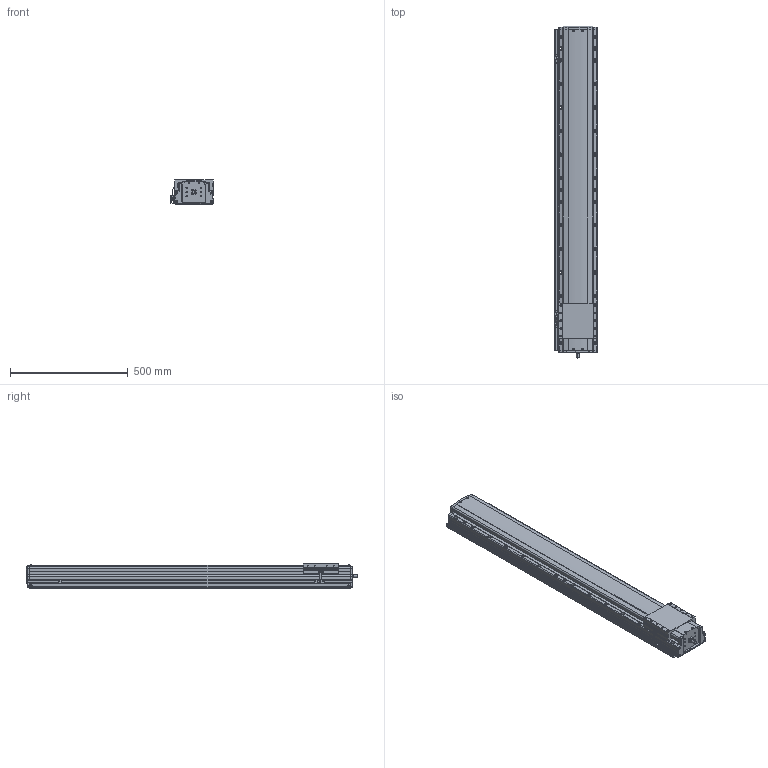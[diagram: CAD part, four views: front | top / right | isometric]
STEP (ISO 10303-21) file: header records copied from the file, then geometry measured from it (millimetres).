
FILE_DESCRIPTION(('STEP AP214'),'1');
FILE_NAME('Z:/Web/3D/PSA165/STP/PSA165-1100 (3D)/PSA165ㅁㅁ-1100+3SL.stp','2014-06-24T10:21:50',(' '),(' '),'Spatial InterOp 3D',' ',' ');
FILE_SCHEMA(('automotive_design'));
Length unit declared in the file: millimetre
Products named in the file (36): 스크루 : Round - M4.0 x 12.0; RRCV-PA160; BASE; 스크루 : Round - M4.0 x 10.0; RN15; Screw 20; SLIDE; FRCV; M3.0 x 6.0; SRL-16x17-360L; SGD-SAN150; EE-SX674; SBK-SX674-352; 스크루 : Round - M3.0 x 6.0; BHCS M4.0 x 10.0
Bounding box: 181 x 1408.8 x 104 mm (x, y, z)
Volume: 19038773.4 mm3; surface area: 1290989.6 mm2
Topology: 36 solids, 36 shells, 2524 faces, 6805 edges, 4369 vertices
Faces by surface type: plane 1423, cylinder 791, cone 217, sphere 52, bspline 25, torus 16
Entity records: 102882 total; most frequent: CARTESIAN_POINT 18060, DIRECTION 13465, ORIENTED_EDGE 13310, EDGE_CURVE 6655, AXIS2_PLACEMENT_3D 4508, LINE 4449, VECTOR 4449, VERTEX_POINT 4369
